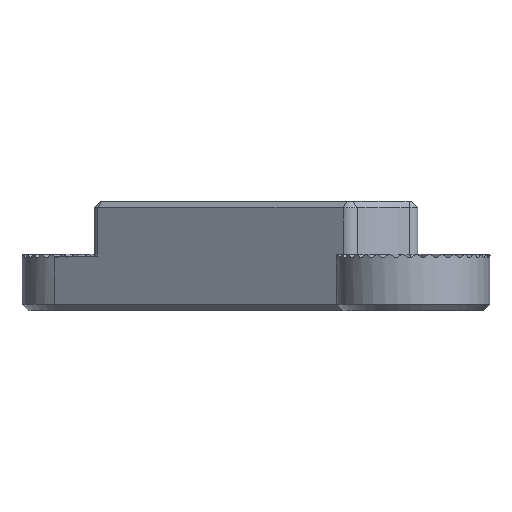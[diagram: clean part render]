
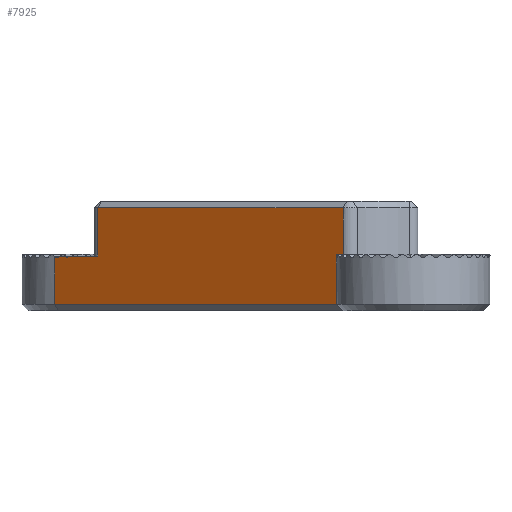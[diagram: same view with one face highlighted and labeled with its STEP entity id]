
A CAD part, left-side view. The second image highlights one B-rep face of the part: STEP entity #7925.
In plain terms, the highlighted planar face has unit normal (-0.819, 0.574, 0).
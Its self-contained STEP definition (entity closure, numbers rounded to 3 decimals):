
#787=FACE_OUTER_BOUND('',#1245,.T.);
#1245=EDGE_LOOP('',(#5512,#5513,#5514,#5515,#5516,#5517,#5518,#5519,#5520));
#1761=LINE('',#12120,#2415);
#1764=LINE('',#12138,#2418);
#1779=LINE('',#12389,#2433);
#1783=LINE('',#12405,#2437);
#1787=LINE('',#12428,#2441);
#1788=LINE('',#12429,#2442);
#1789=LINE('',#12431,#2443);
#1790=LINE('',#12433,#2444);
#1791=LINE('',#12434,#2445);
#2415=VECTOR('',#9547,10.);
#2418=VECTOR('',#9568,10.);
#2433=VECTOR('',#9819,10.);
#2437=VECTOR('',#9839,10.);
#2441=VECTOR('',#9867,10.);
#2442=VECTOR('',#9868,10.);
#2443=VECTOR('',#9869,10.);
#2444=VECTOR('',#9870,10.);
#2445=VECTOR('',#9871,10.);
#3033=VERTEX_POINT('',#12114);
#3034=VERTEX_POINT('',#12118);
#3040=VERTEX_POINT('',#12136);
#3157=VERTEX_POINT('',#12383);
#3158=VERTEX_POINT('',#12387);
#3162=VERTEX_POINT('',#12403);
#3169=VERTEX_POINT('',#12427);
#3170=VERTEX_POINT('',#12430);
#3171=VERTEX_POINT('',#12432);
#3908=EDGE_CURVE('',#3033,#3034,#1761,.T.);
#3917=EDGE_CURVE('',#3040,#3033,#1764,.T.);
#4043=EDGE_CURVE('',#3157,#3158,#1779,.T.);
#4051=EDGE_CURVE('',#3162,#3157,#1783,.T.);
#4062=EDGE_CURVE('',#3040,#3169,#1787,.T.);
#4063=EDGE_CURVE('',#3158,#3169,#1788,.T.);
#4064=EDGE_CURVE('',#3170,#3162,#1789,.T.);
#4065=EDGE_CURVE('',#3170,#3171,#1790,.T.);
#4066=EDGE_CURVE('',#3171,#3034,#1791,.T.);
#5512=ORIENTED_EDGE('',*,*,#3908,.F.);
#5513=ORIENTED_EDGE('',*,*,#3917,.F.);
#5514=ORIENTED_EDGE('',*,*,#4062,.T.);
#5515=ORIENTED_EDGE('',*,*,#4063,.F.);
#5516=ORIENTED_EDGE('',*,*,#4043,.F.);
#5517=ORIENTED_EDGE('',*,*,#4051,.F.);
#5518=ORIENTED_EDGE('',*,*,#4064,.F.);
#5519=ORIENTED_EDGE('',*,*,#4065,.T.);
#5520=ORIENTED_EDGE('',*,*,#4066,.T.);
#7545=PLANE('',#8521);
#7925=ADVANCED_FACE('',(#787),#7545,.T.);
#8521=AXIS2_PLACEMENT_3D('',#12426,#9865,#9866);
#9547=DIRECTION('',(0.574,0.819,0.));
#9568=DIRECTION('',(0.,0.,-1.));
#9819=DIRECTION('',(-0.574,-0.819,0.));
#9839=DIRECTION('',(0.,0.,1.));
#9865=DIRECTION('center_axis',(-0.819,0.574,0.));
#9866=DIRECTION('ref_axis',(0.574,0.819,0.));
#9867=DIRECTION('',(-0.574,-0.819,0.007));
#9868=DIRECTION('',(0.,0.,-1.));
#9869=DIRECTION('',(-0.574,-0.819,0.));
#9870=DIRECTION('',(0.,0.,-1.));
#9871=DIRECTION('',(0.,0.,-1.));
#12114=CARTESIAN_POINT('',(238.31,-118.28,-22.));
#12118=CARTESIAN_POINT('',(330.314,13.114,-22.));
#12120=CARTESIAN_POINT('',(254.311,-95.429,-22.));
#12136=CARTESIAN_POINT('',(238.31,-118.28,0.574));
#12138=CARTESIAN_POINT('',(238.31,-118.28,0.));
#12383=CARTESIAN_POINT('',(316.552,-6.539,22.));
#12387=CARTESIAN_POINT('',(238.282,-118.321,22.));
#12389=CARTESIAN_POINT('',(254.311,-95.429,22.));
#12403=CARTESIAN_POINT('',(316.552,-6.539,0.));
#12405=CARTESIAN_POINT('',(316.552,-6.539,0.));
#12426=CARTESIAN_POINT('Origin',(235.666,-122.058,0.));
#12427=CARTESIAN_POINT('',(238.282,-118.321,0.575));
#12428=CARTESIAN_POINT('',(234.233,-124.104,0.624));
#12429=CARTESIAN_POINT('',(238.282,-118.321,0.));
#12430=CARTESIAN_POINT('',(330.314,13.114,0.));
#12431=CARTESIAN_POINT('',(254.311,-95.429,0.));
#12432=CARTESIAN_POINT('',(330.314,13.114,-0.392));
#12433=CARTESIAN_POINT('',(330.314,13.114,0.));
#12434=CARTESIAN_POINT('',(330.314,13.114,0.));
